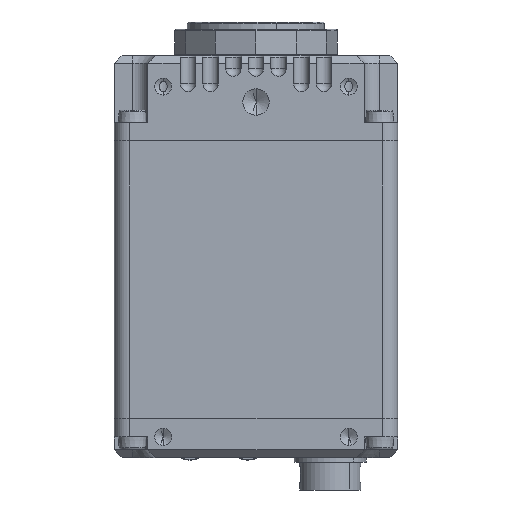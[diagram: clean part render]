
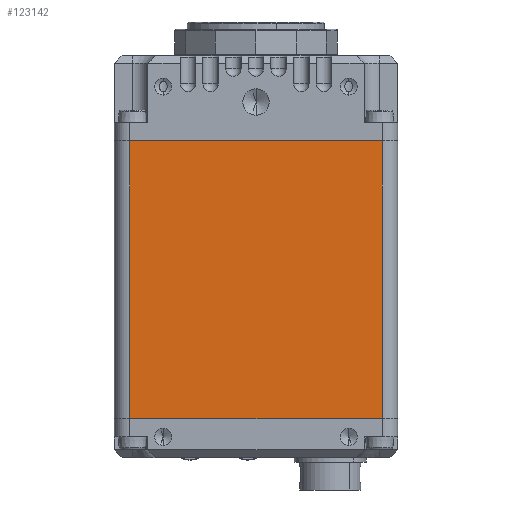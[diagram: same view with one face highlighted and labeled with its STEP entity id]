
A CAD part, front view. The second image highlights one B-rep face of the part: STEP entity #123142.
In plain terms, the highlighted planar face has unit normal (0, -1, 0).
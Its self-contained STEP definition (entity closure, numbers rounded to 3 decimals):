
#2379 = CARTESIAN_POINT ( 'NONE',  ( 24.5, -27.5, -2.2 ) ) ;
#4351 = CARTESIAN_POINT ( 'NONE',  ( -27.5, -27.5, -2.2 ) ) ;
#5070 = EDGE_CURVE ( 'NONE', #5409, #6286, #90162, .T. ) ;
#5409 = VERTEX_POINT ( 'NONE', #72967 ) ;
#6286 = VERTEX_POINT ( 'NONE', #112821 ) ;
#13925 = ORIENTED_EDGE ( 'NONE', *, *, #34936, .T. ) ;
#14141 = CARTESIAN_POINT ( 'NONE',  ( -24.5, -27.5, -2.2 ) ) ;
#17157 = CARTESIAN_POINT ( 'NONE',  ( 24.5, -27.5, -56.1 ) ) ;
#21367 = LINE ( 'NONE', #2379, #22539 ) ;
#22328 = ORIENTED_EDGE ( 'NONE', *, *, #45989, .T. ) ;
#22539 = VECTOR ( 'NONE', #40886, 1000. ) ;
#22995 = LINE ( 'NONE', #14141, #96405 ) ;
#25173 = LINE ( 'NONE', #112145, #66841 ) ;
#26438 = FACE_OUTER_BOUND ( 'NONE', #75580, .T. ) ;
#34936 = EDGE_CURVE ( 'NONE', #5409, #91473, #22995, .T. ) ;
#40886 = DIRECTION ( 'NONE',  ( 0., 0., 1. ) ) ;
#44050 = CARTESIAN_POINT ( 'NONE',  ( -24.5, -27.5, -56.1 ) ) ;
#45989 = EDGE_CURVE ( 'NONE', #114085, #6286, #21367, .T. ) ;
#47206 = DIRECTION ( 'NONE',  ( 0., 0., 1. ) ) ;
#52632 = DIRECTION ( 'NONE',  ( 0., 0., -1. ) ) ;
#57705 = ORIENTED_EDGE ( 'NONE', *, *, #5070, .F. ) ;
#62767 = AXIS2_PLACEMENT_3D ( 'NONE', #114634, #122203, #47206 ) ;
#63033 = DIRECTION ( 'NONE',  ( 1., 0., 0. ) ) ;
#63912 = EDGE_CURVE ( 'NONE', #91473, #114085, #25173, .T. ) ;
#66841 = VECTOR ( 'NONE', #73706, 1000. ) ;
#72967 = CARTESIAN_POINT ( 'NONE',  ( -24.5, -27.5, -2.2 ) ) ;
#73706 = DIRECTION ( 'NONE',  ( 1., 0., 0. ) ) ;
#75580 = EDGE_LOOP ( 'NONE', ( #57705, #13925, #104140, #22328 ) ) ;
#83781 = PLANE ( 'NONE',  #62767 ) ;
#90162 = LINE ( 'NONE', #4351, #105981 ) ;
#91473 = VERTEX_POINT ( 'NONE', #44050 ) ;
#96405 = VECTOR ( 'NONE', #52632, 1000. ) ;
#104140 = ORIENTED_EDGE ( 'NONE', *, *, #63912, .T. ) ;
#105981 = VECTOR ( 'NONE', #63033, 1000. ) ;
#112145 = CARTESIAN_POINT ( 'NONE',  ( -27.5, -27.5, -56.1 ) ) ;
#112821 = CARTESIAN_POINT ( 'NONE',  ( 24.5, -27.5, -2.2 ) ) ;
#114085 = VERTEX_POINT ( 'NONE', #17157 ) ;
#114634 = CARTESIAN_POINT ( 'NONE',  ( -27.5, -27.5, -2.2 ) ) ;
#122203 = DIRECTION ( 'NONE',  ( 0., 1., 0. ) ) ;
#123142 = ADVANCED_FACE ( 'NONE', ( #26438 ), #83781, .F. ) ;
